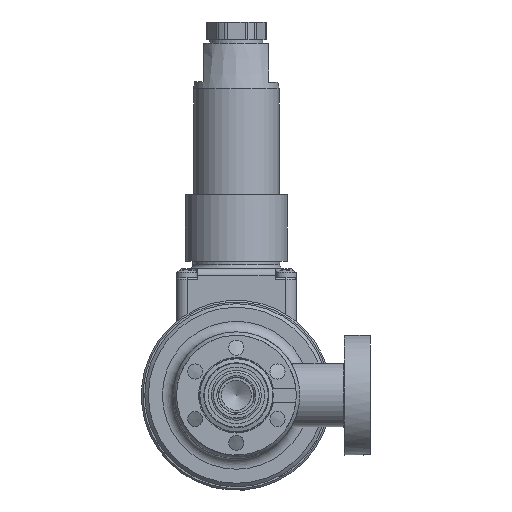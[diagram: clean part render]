
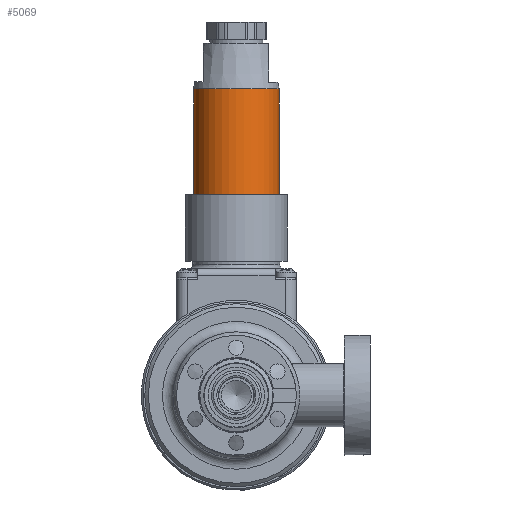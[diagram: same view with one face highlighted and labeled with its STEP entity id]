
A CAD part, front view. The second image highlights one B-rep face of the part: STEP entity #5069.
In plain terms, the highlighted cylindrical face has radius 12.15 mm (diameter 24.3 mm), a full revolution.
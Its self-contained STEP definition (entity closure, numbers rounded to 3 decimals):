
#5069=ADVANCED_FACE('',(#6340,#6341),#5326,.T.);
#5326=CYLINDRICAL_SURFACE('',#14548,12.15);
#5713=CIRCLE('',#14545,12.15);
#5714=CIRCLE('',#14547,12.15);
#6340=FACE_BOUND('',#7299,.T.);
#6341=FACE_BOUND('',#7300,.T.);
#7299=EDGE_LOOP('',(#10058));
#7300=EDGE_LOOP('',(#10059));
#10058=ORIENTED_EDGE('',*,*,#12991,.F.);
#10059=ORIENTED_EDGE('',*,*,#12992,.T.);
#11522=VERTEX_POINT('',#27284);
#11523=VERTEX_POINT('',#27287);
#12991=EDGE_CURVE('',#11522,#11522,#5713,.T.);
#12992=EDGE_CURVE('',#11523,#11523,#5714,.T.);
#14545=AXIS2_PLACEMENT_3D('',#27283,#17159,#17160);
#14547=AXIS2_PLACEMENT_3D('',#27286,#17163,#17164);
#14548=AXIS2_PLACEMENT_3D('',#27288,#17165,#17166);
#17159=DIRECTION('',(1.,0.,0.));
#17160=DIRECTION('',(0.,1.,0.));
#17163=DIRECTION('',(1.,0.,0.));
#17164=DIRECTION('',(0.,1.,0.));
#17165=DIRECTION('',(-1.,0.,0.));
#17166=DIRECTION('',(0.,1.,0.));
#27283=CARTESIAN_POINT('',(-19.,0.,0.));
#27284=CARTESIAN_POINT('',(-19.,12.15,0.));
#27286=CARTESIAN_POINT('',(-49.,0.,0.));
#27287=CARTESIAN_POINT('',(-49.,12.15,0.));
#27288=CARTESIAN_POINT('',(-19.,0.,0.));
